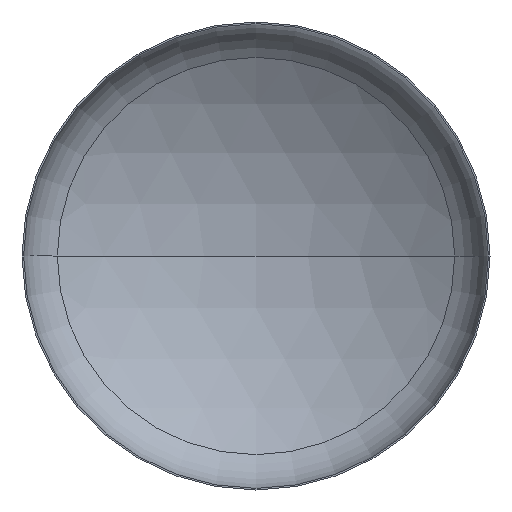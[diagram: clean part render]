
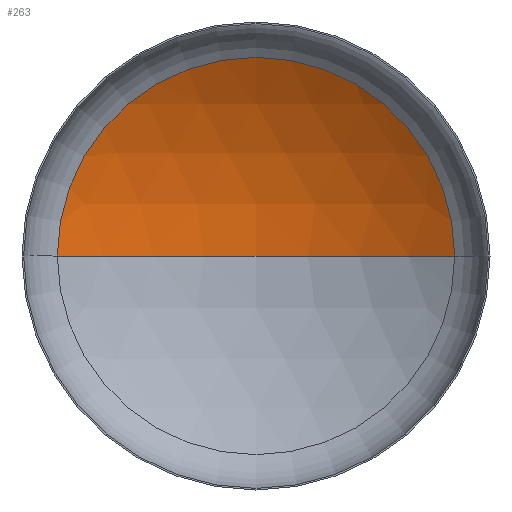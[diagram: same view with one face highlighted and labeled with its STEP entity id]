
A CAD part, front view. The second image highlights one B-rep face of the part: STEP entity #263.
In plain terms, the highlighted spherical face has radius 4400 mm.
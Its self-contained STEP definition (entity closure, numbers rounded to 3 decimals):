
#36 = CARTESIAN_POINT ( 'NONE',  ( 0., 776.283, 0. ) ) ;
#69 = DIRECTION ( 'NONE',  ( 1., 0., 0. ) ) ;
#77 = CARTESIAN_POINT ( 'NONE',  ( -2334.29, 776.283, 0. ) ) ;
#82 = CARTESIAN_POINT ( 'NONE',  ( 0., -2953.475, 0. ) ) ;
#83 = FACE_OUTER_BOUND ( 'NONE', #306, .T. ) ;
#93 = VERTEX_POINT ( 'NONE', #227 ) ;
#117 = DIRECTION ( 'NONE',  ( -1., 0., 0. ) ) ;
#125 = AXIS2_PLACEMENT_3D ( 'NONE', #172, #386, #201 ) ;
#126 = EDGE_CURVE ( 'NONE', #93, #405, #278, .T. ) ;
#135 = CIRCLE ( 'NONE', #125, 4400. ) ;
#145 = CARTESIAN_POINT ( 'NONE',  ( 0., -2953.475, 0. ) ) ;
#152 = ORIENTED_EDGE ( 'NONE', *, *, #126, .T. ) ;
#158 = SPHERICAL_SURFACE ( 'NONE', #182, 4400. ) ;
#162 = VERTEX_POINT ( 'NONE', #230 ) ;
#164 = AXIS2_PLACEMENT_3D ( 'NONE', #82, #305, #117 ) ;
#172 = CARTESIAN_POINT ( 'NONE',  ( 0., -2953.475, 0. ) ) ;
#182 = AXIS2_PLACEMENT_3D ( 'NONE', #145, #360, #207 ) ;
#201 = DIRECTION ( 'NONE',  ( 1., 0., 0. ) ) ;
#207 = DIRECTION ( 'NONE',  ( -1., 0., 0. ) ) ;
#227 = CARTESIAN_POINT ( 'NONE',  ( 2334.29, 776.283, 0. ) ) ;
#230 = CARTESIAN_POINT ( 'NONE',  ( 0., 1446.525, 0. ) ) ;
#261 = DIRECTION ( 'NONE',  ( 0., -1., 0. ) ) ;
#263 = ADVANCED_FACE ( 'NONE', ( #83 ), #158, .F. ) ;
#273 = ORIENTED_EDGE ( 'NONE', *, *, #345, .T. ) ;
#278 = CIRCLE ( 'NONE', #307, 2334.29 ) ;
#305 = DIRECTION ( 'NONE',  ( 0., 0., -1. ) ) ;
#306 = EDGE_LOOP ( 'NONE', ( #330, #273, #152 ) ) ;
#307 = AXIS2_PLACEMENT_3D ( 'NONE', #36, #261, #69 ) ;
#313 = CIRCLE ( 'NONE', #164, 4400. ) ;
#330 = ORIENTED_EDGE ( 'NONE', *, *, #368, .F. ) ;
#345 = EDGE_CURVE ( 'NONE', #162, #93, #313, .T. ) ;
#360 = DIRECTION ( 'NONE',  ( 0., 0., -1. ) ) ;
#368 = EDGE_CURVE ( 'NONE', #162, #405, #135, .T. ) ;
#386 = DIRECTION ( 'NONE',  ( 0., 0., 1. ) ) ;
#405 = VERTEX_POINT ( 'NONE', #77 ) ;
